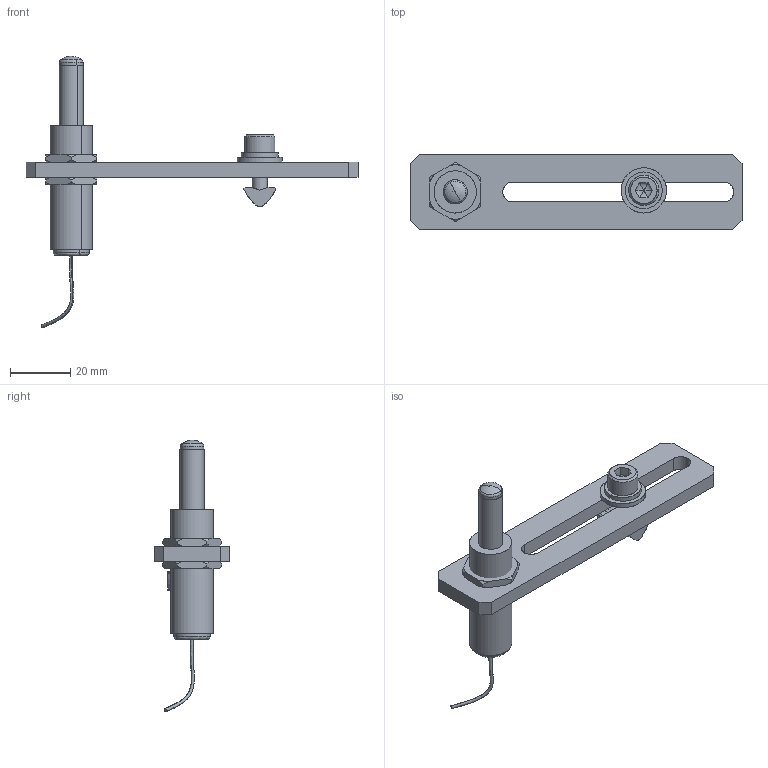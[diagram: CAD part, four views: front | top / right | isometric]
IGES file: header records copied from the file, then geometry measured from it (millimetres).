
Start section: SolidWorks IGES file using analytic representation for surfaces
Global section: file name: E:\EFCKishi\Šm”F\LLM\IGES\LLM-001.IGS; native system: SolidWorks 2006 by SolidWorks Corporation; preprocessor: SolidWorks 2006 by SolidWorks Corporation; author: CAD58; date: 080913.084715; units: millimetre
Bounding box: 110 x 25 x 89.96 mm (x, y, z)
Surface area: 11666 mm2 (no closed solid volume)
Topology: 0 solids, 0 shells, 125 faces, 1476 edges, 1469 vertices
Faces by surface type: bspline 66, revolution 59
